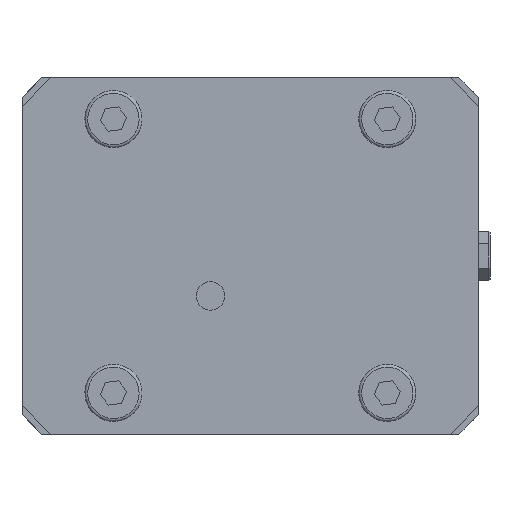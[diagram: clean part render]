
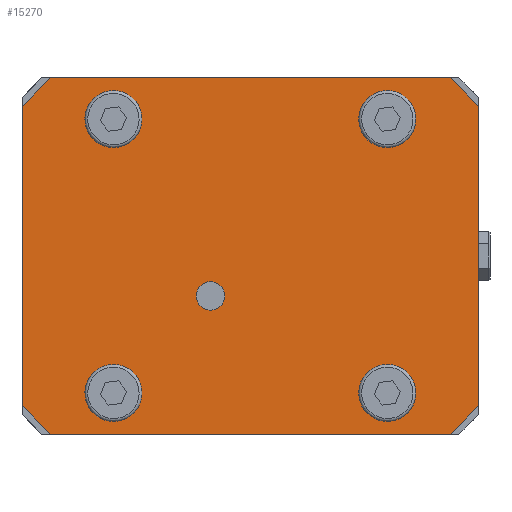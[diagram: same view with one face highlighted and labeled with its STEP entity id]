
A CAD part, front view. The second image highlights one B-rep face of the part: STEP entity #15270.
In plain terms, the highlighted planar face has unit normal (0, -1, 0).
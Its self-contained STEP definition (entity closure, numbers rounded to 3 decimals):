
#2 = ORIENTED_EDGE ( 'NONE', *, *, #3146, .T. ) ;
#175 = EDGE_CURVE ( 'NONE', #6332, #31313, #23868, .T. ) ;
#257 = EDGE_CURVE ( 'NONE', #37048, #37048, #3793, .T. ) ;
#1281 = DIRECTION ( 'NONE',  ( 0., 0., -1. ) ) ;
#1875 = DIRECTION ( 'NONE',  ( 0., 0., -1. ) ) ;
#2139 = VECTOR ( 'NONE', #28092, 1000. ) ;
#2772 = ORIENTED_EDGE ( 'NONE', *, *, #31474, .T. ) ;
#3015 = VECTOR ( 'NONE', #30643, 1000. ) ;
#3146 = EDGE_CURVE ( 'NONE', #42851, #6332, #34991, .T. ) ;
#3174 = CARTESIAN_POINT ( 'NONE',  ( 80., 0., 52.5 ) ) ;
#3793 = CIRCLE ( 'NONE', #19557, 8. ) ;
#4966 = VECTOR ( 'NONE', #20217, 1000. ) ;
#5032 = VERTEX_POINT ( 'NONE', #5510 ) ;
#5510 = CARTESIAN_POINT ( 'NONE',  ( -48., 0., 56. ) ) ;
#5721 = CARTESIAN_POINT ( 'NONE',  ( -56., 0., -48. ) ) ;
#5834 = CARTESIAN_POINT ( 'NONE',  ( 80., 0., -62.5 ) ) ;
#6332 = VERTEX_POINT ( 'NONE', #35823 ) ;
#6487 = DIRECTION ( 'NONE',  ( -1., 0., 0. ) ) ;
#6555 = DIRECTION ( 'NONE',  ( -1., 0., 0. ) ) ;
#6629 = VECTOR ( 'NONE', #6555, 1000. ) ;
#6963 = ORIENTED_EDGE ( 'NONE', *, *, #175, .T. ) ;
#7134 = CARTESIAN_POINT ( 'NONE',  ( -14., 0., -14. ) ) ;
#7199 = AXIS2_PLACEMENT_3D ( 'NONE', #22412, #33091, #8309 ) ;
#7245 = VERTEX_POINT ( 'NONE', #33419 ) ;
#7478 = EDGE_LOOP ( 'NONE', ( #29857 ) ) ;
#7934 = CIRCLE ( 'NONE', #7199, 8. ) ;
#8183 = CIRCLE ( 'NONE', #13497, 5. ) ;
#8231 = VERTEX_POINT ( 'NONE', #36737 ) ;
#8309 = DIRECTION ( 'NONE',  ( 0., 0., 1. ) ) ;
#9227 = VERTEX_POINT ( 'NONE', #23985 ) ;
#9483 = EDGE_CURVE ( 'NONE', #12844, #46080, #45164, .T. ) ;
#9635 = ORIENTED_EDGE ( 'NONE', *, *, #36025, .T. ) ;
#9827 = CARTESIAN_POINT ( 'NONE',  ( 70., 0., -62.5 ) ) ;
#10971 = VECTOR ( 'NONE', #6487, 1000. ) ;
#11366 = AXIS2_PLACEMENT_3D ( 'NONE', #31845, #20481, #34638 ) ;
#11840 = CARTESIAN_POINT ( 'NONE',  ( 56., 0., 48. ) ) ;
#11968 = EDGE_LOOP ( 'NONE', ( #25687 ) ) ;
#12269 = DIRECTION ( 'NONE',  ( 0., -1., 0. ) ) ;
#12336 = EDGE_CURVE ( 'NONE', #18893, #42851, #23796, .T. ) ;
#12844 = VERTEX_POINT ( 'NONE', #9827 ) ;
#12913 = LINE ( 'NONE', #30913, #4966 ) ;
#13066 = EDGE_CURVE ( 'NONE', #8231, #8231, #8183, .T. ) ;
#13344 = ORIENTED_EDGE ( 'NONE', *, *, #16514, .F. ) ;
#13497 = AXIS2_PLACEMENT_3D ( 'NONE', #7134, #12269, #1281 ) ;
#13851 = CARTESIAN_POINT ( 'NONE',  ( 80., 0., -62.5 ) ) ;
#14047 = EDGE_LOOP ( 'NONE', ( #9635 ) ) ;
#14640 = EDGE_CURVE ( 'NONE', #31313, #7245, #27355, .T. ) ;
#14894 = ORIENTED_EDGE ( 'NONE', *, *, #15477, .T. ) ;
#14962 = CARTESIAN_POINT ( 'NONE',  ( 48., 0., 48. ) ) ;
#15270 = ADVANCED_FACE ( 'NONE', ( #30877, #41364, #23210, #27133, #30391, #16437 ), #37371, .F. ) ;
#15477 = EDGE_CURVE ( 'NONE', #7245, #46080, #34147, .T. ) ;
#16162 = ORIENTED_EDGE ( 'NONE', *, *, #35369, .T. ) ;
#16437 = FACE_OUTER_BOUND ( 'NONE', #41649, .T. ) ;
#16514 = EDGE_CURVE ( 'NONE', #18893, #9227, #17121, .T. ) ;
#16557 = VERTEX_POINT ( 'NONE', #5721 ) ;
#17121 = LINE ( 'NONE', #27840, #3015 ) ;
#18131 = VECTOR ( 'NONE', #1875, 1000. ) ;
#18880 = ORIENTED_EDGE ( 'NONE', *, *, #12336, .T. ) ;
#18893 = VERTEX_POINT ( 'NONE', #26763 ) ;
#19532 = ORIENTED_EDGE ( 'NONE', *, *, #14640, .T. ) ;
#19557 = AXIS2_PLACEMENT_3D ( 'NONE', #14962, #29392, #21955 ) ;
#20217 = DIRECTION ( 'NONE',  ( 0.707, 0., 0.707 ) ) ;
#20481 = DIRECTION ( 'NONE',  ( 0., 1., 0. ) ) ;
#21955 = DIRECTION ( 'NONE',  ( 1., 0., 0. ) ) ;
#22412 = CARTESIAN_POINT ( 'NONE',  ( -48., 0., 48. ) ) ;
#22590 = DIRECTION ( 'NONE',  ( -1., 0., 0. ) ) ;
#23210 = FACE_BOUND ( 'NONE', #40569, .T. ) ;
#23279 = DIRECTION ( 'NONE',  ( 0., 1., 0. ) ) ;
#23439 = DIRECTION ( 'NONE',  ( 0., 0., 1. ) ) ;
#23796 = LINE ( 'NONE', #3174, #29803 ) ;
#23868 = LINE ( 'NONE', #38050, #28399 ) ;
#23985 = CARTESIAN_POINT ( 'NONE',  ( 80., 0., -52.5 ) ) ;
#24662 = ORIENTED_EDGE ( 'NONE', *, *, #257, .T. ) ;
#25687 = ORIENTED_EDGE ( 'NONE', *, *, #45490, .T. ) ;
#26728 = CARTESIAN_POINT ( 'NONE',  ( -48., 0., -48. ) ) ;
#26763 = CARTESIAN_POINT ( 'NONE',  ( 80., 0., 52.5 ) ) ;
#27021 = CARTESIAN_POINT ( 'NONE',  ( 48., 0., -56. ) ) ;
#27058 = CIRCLE ( 'NONE', #11366, 8. ) ;
#27133 = FACE_BOUND ( 'NONE', #11968, .T. ) ;
#27355 = LINE ( 'NONE', #41357, #18131 ) ;
#27568 = CARTESIAN_POINT ( 'NONE',  ( -70., 0., -62.5 ) ) ;
#27840 = CARTESIAN_POINT ( 'NONE',  ( 80., 0., -62.5 ) ) ;
#28092 = DIRECTION ( 'NONE',  ( 0.707, 0., -0.707 ) ) ;
#28399 = VECTOR ( 'NONE', #42275, 1000. ) ;
#29392 = DIRECTION ( 'NONE',  ( 0., 1., 0. ) ) ;
#29803 = VECTOR ( 'NONE', #45258, 1000. ) ;
#29857 = ORIENTED_EDGE ( 'NONE', *, *, #13066, .F. ) ;
#30391 = FACE_BOUND ( 'NONE', #7478, .T. ) ;
#30643 = DIRECTION ( 'NONE',  ( 0., 0., -1. ) ) ;
#30877 = FACE_BOUND ( 'NONE', #43060, .T. ) ;
#30913 = CARTESIAN_POINT ( 'NONE',  ( 80., 0., -52.5 ) ) ;
#31313 = VERTEX_POINT ( 'NONE', #44476 ) ;
#31474 = EDGE_CURVE ( 'NONE', #12844, #9227, #12913, .T. ) ;
#31627 = ORIENTED_EDGE ( 'NONE', *, *, #9483, .F. ) ;
#31845 = CARTESIAN_POINT ( 'NONE',  ( 48., 0., -48. ) ) ;
#33091 = DIRECTION ( 'NONE',  ( 0., 1., 0. ) ) ;
#33419 = CARTESIAN_POINT ( 'NONE',  ( -80., 0., -52.5 ) ) ;
#34147 = LINE ( 'NONE', #45185, #2139 ) ;
#34638 = DIRECTION ( 'NONE',  ( 0., 0., -1. ) ) ;
#34991 = LINE ( 'NONE', #45114, #10971 ) ;
#35369 = EDGE_CURVE ( 'NONE', #16557, #16557, #38881, .T. ) ;
#35823 = CARTESIAN_POINT ( 'NONE',  ( -70., 0., 62.5 ) ) ;
#35936 = AXIS2_PLACEMENT_3D ( 'NONE', #26728, #23279, #22590 ) ;
#36025 = EDGE_CURVE ( 'NONE', #44796, #44796, #27058, .T. ) ;
#36737 = CARTESIAN_POINT ( 'NONE',  ( -14., 0., -19. ) ) ;
#37048 = VERTEX_POINT ( 'NONE', #11840 ) ;
#37371 = PLANE ( 'NONE',  #45426 ) ;
#38050 = CARTESIAN_POINT ( 'NONE',  ( -70., 0., 62.5 ) ) ;
#38434 = CARTESIAN_POINT ( 'NONE',  ( 70., 0., 62.5 ) ) ;
#38881 = CIRCLE ( 'NONE', #35936, 8. ) ;
#40569 = EDGE_LOOP ( 'NONE', ( #16162 ) ) ;
#41357 = CARTESIAN_POINT ( 'NONE',  ( -80., 0., -62.5 ) ) ;
#41364 = FACE_BOUND ( 'NONE', #14047, .T. ) ;
#41612 = DIRECTION ( 'NONE',  ( 0., 1., 0. ) ) ;
#41649 = EDGE_LOOP ( 'NONE', ( #2, #6963, #19532, #14894, #31627, #2772, #13344, #18880 ) ) ;
#42275 = DIRECTION ( 'NONE',  ( -0.707, 0., -0.707 ) ) ;
#42851 = VERTEX_POINT ( 'NONE', #38434 ) ;
#43060 = EDGE_LOOP ( 'NONE', ( #24662 ) ) ;
#44476 = CARTESIAN_POINT ( 'NONE',  ( -80., 0., 52.5 ) ) ;
#44796 = VERTEX_POINT ( 'NONE', #27021 ) ;
#45114 = CARTESIAN_POINT ( 'NONE',  ( 80., 0., 62.5 ) ) ;
#45164 = LINE ( 'NONE', #13851, #6629 ) ;
#45185 = CARTESIAN_POINT ( 'NONE',  ( -70., 0., -62.5 ) ) ;
#45258 = DIRECTION ( 'NONE',  ( -0.707, 0., 0.707 ) ) ;
#45426 = AXIS2_PLACEMENT_3D ( 'NONE', #5834, #41612, #23439 ) ;
#45490 = EDGE_CURVE ( 'NONE', #5032, #5032, #7934, .T. ) ;
#46080 = VERTEX_POINT ( 'NONE', #27568 ) ;
